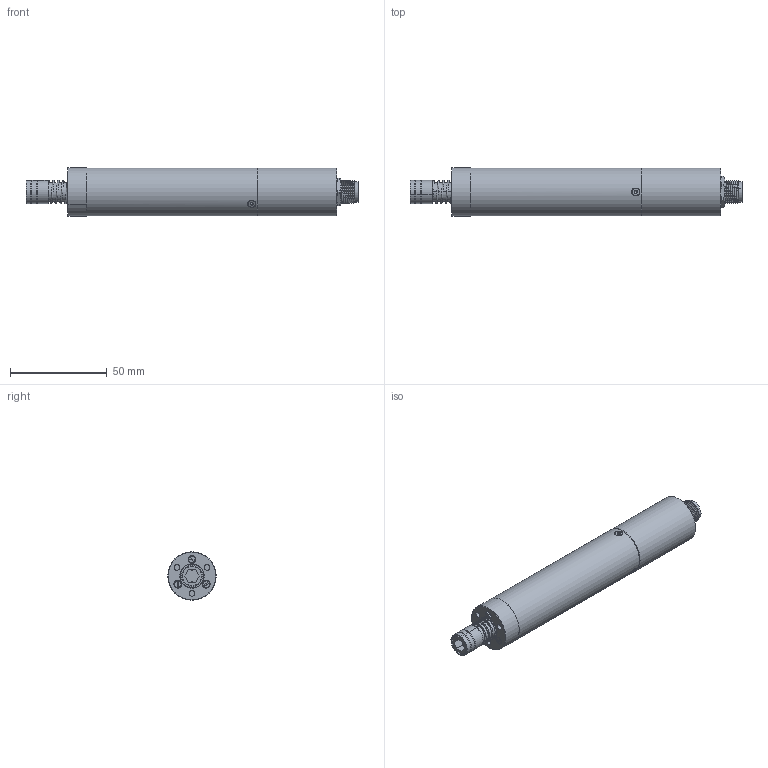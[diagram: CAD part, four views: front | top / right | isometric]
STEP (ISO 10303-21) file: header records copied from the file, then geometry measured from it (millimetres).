
FILE_DESCRIPTION (( 'STEP AP214' ), '1' );
FILE_NAME ('NATO 50CA-TA rev1.STEP', '2020-03-02T15:51:55', ( '' ), ( '' ), 'SwSTEP 2.0', 'SolidWorks 2017', '' );
FILE_SCHEMA (( 'AUTOMOTIVE_DESIGN' ));
Length unit declared in the file: millimetre
Products named in the file (1): NATO 50CA-TA rev1
Bounding box: 171.8 x 25 x 25 mm (x, y, z)
Volume: 30005.4 mm3; surface area: 33676.4 mm2
Topology: 19 solids, 19 shells, 604 faces, 1462 edges, 914 vertices
Faces by surface type: cylinder 280, plane 163, cone 96, bspline 52, sphere 7, torus 6
Entity records: 37132 total; most frequent: CARTESIAN_POINT 16504, DIRECTION 2954, ORIENTED_EDGE 2842, EDGE_CURVE 1421, AXIS2_PLACEMENT_3D 1239, VERTEX_POINT 902, EDGE_LOOP 697, CIRCLE 686
